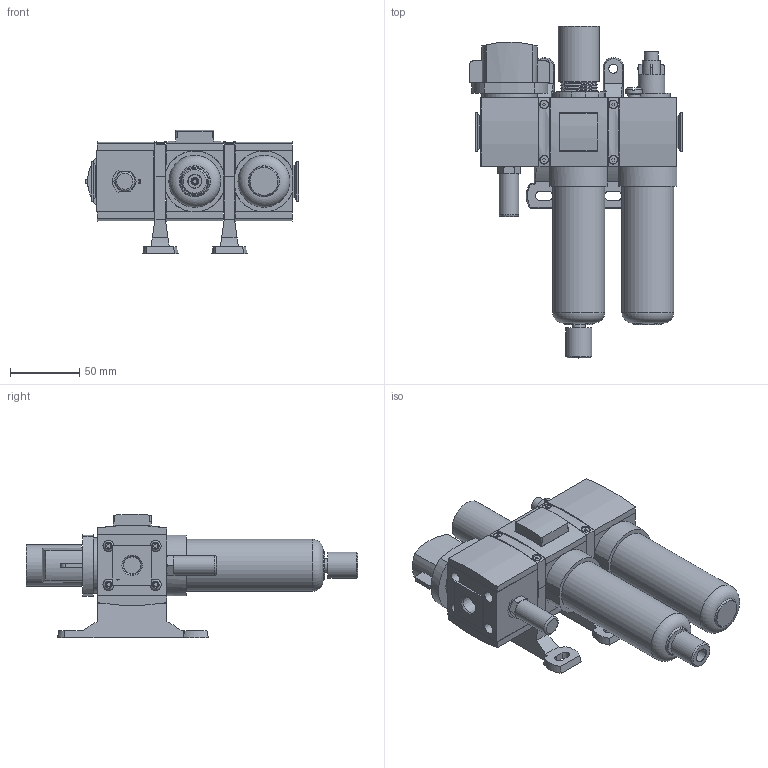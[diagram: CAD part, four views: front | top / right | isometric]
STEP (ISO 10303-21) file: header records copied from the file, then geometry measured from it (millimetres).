
FILE_DESCRIPTION( ( 'STEP AP214' ), '1' );
FILE_NAME( 'p:/temp/worker_148/temp/exporttempdir_3400_448_lsrMn/format_0/12422020-130247_gen_9618.stp', '2020-02-12T12:42:48', ( '' ), ( '' ), ' ', 'PARTsolutions', ' ' );
FILE_SCHEMA( ( 'AUTOMOTIVE_DESIGN { 1 0 10303 214 1 1 1 1 }' ) );
Length unit declared in the file: millimetre
Products named in the file (14): 12422020-130247_gen_9618; _438683-008-FL; _1437740-001-R-0; _M2MN_651; _437742-001-100_651; _G651ASLA0B00A00_LS; _514893-008-FL; _438047-009_651_gauge; _1437740-002-MR-0; _437932-001_BONNET; _504924-001-STANDARD_651; _434133-001; _440512-002; _433456-008-F-
Assembly tree (19 placements, depth 2):
  12422020-130247_gen_9618
    _438683-008-FL
    _1437740-001-R-0  x5
    _M2MN_651
    _437742-001-100_651
    _G651ASLA0B00A00_LS  x2
    _514893-008-FL
    _438047-009_651_gauge
    _1437740-002-MR-0
    _437932-001_BONNET
    _504924-001-STANDARD_651
    _434133-001  x2
    _440512-002
    _433456-008-F-
Bounding box: 154 x 239.97 x 89.41 mm (x, y, z)
Volume: 765669.3 mm3; surface area: 175952.5 mm2
Topology: 19 solids, 19 shells, 784 faces, 1908 edges, 1231 vertices
Faces by surface type: plane 517, cylinder 178, cone 66, torus 17, bspline 6
Full cylindrical faces by diameter (mm): 2.5 x4, 2.8 x2, 3.5 x4, 4.2 x4, 5 x1, 6 x5, 6.5 x2, 8.2 x4, 9.3 x1, 9.728 x2, 10 x1, 11.7 x1, 13 x1, 13.081 x1, 14.224 x1, 15.1 x1, 19 x1, 19.4 x1, 20 x3, 20.2 x2, 22.25 x2, 25.5 x3, 27 x1, 30 x1, 35 x2, 37.5 x2, 40 x1
Entity records: 25301 total; most frequent: CARTESIAN_POINT 4324, DIRECTION 3219, ORIENTED_EDGE 3028, EDGE_CURVE 1514, AXIS2_PLACEMENT_3D 1098, VERTEX_POINT 1028, LINE 1023, VECTOR 1023
